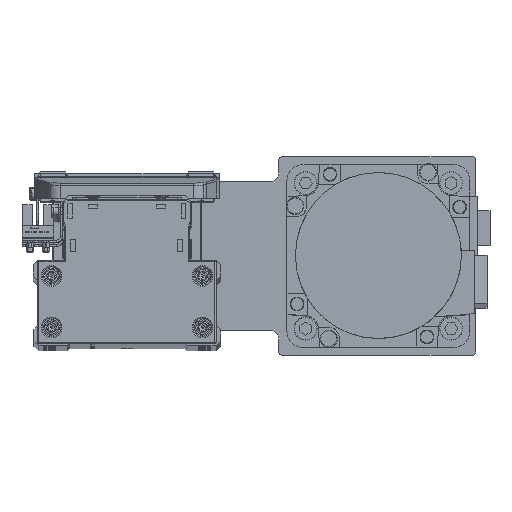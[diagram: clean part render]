
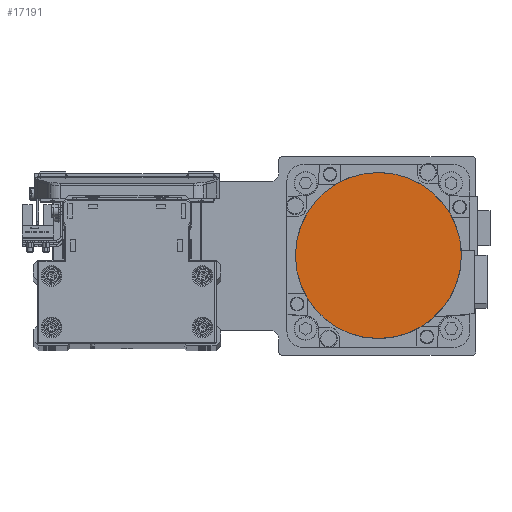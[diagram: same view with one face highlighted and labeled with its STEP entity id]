
A CAD part, top view. The second image highlights one B-rep face of the part: STEP entity #17191.
In plain terms, the highlighted planar face has unit normal (0, 0, 1) as drawn and (0, 0, -1) by its records, which use the part's own axes.
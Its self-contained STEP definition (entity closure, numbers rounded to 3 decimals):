
#2287 = DIRECTION ( 'NONE',  ( 0., -1., 0. ) ) ;
#4600 = CARTESIAN_POINT ( 'NONE',  ( 0., -36.3, -122.2 ) ) ;
#6093 = AXIS2_PLACEMENT_3D ( 'NONE', #36736, #8736, #21207 ) ;
#6356 = CARTESIAN_POINT ( 'NONE',  ( 0., 36.3, -122.2 ) ) ;
#7137 = VERTEX_POINT ( 'NONE', #6356 ) ;
#7795 = CIRCLE ( 'NONE', #30647, 36.3 ) ;
#8736 = DIRECTION ( 'NONE',  ( 0., 0., 1. ) ) ;
#9808 = CARTESIAN_POINT ( 'NONE',  ( 0., 0., -122.2 ) ) ;
#17191 = ADVANCED_FACE ( 'NONE', ( #25346 ), #37816, .F. ) ;
#17835 = CARTESIAN_POINT ( 'NONE',  ( 0., 0., -122.2 ) ) ;
#19022 = ORIENTED_EDGE ( 'NONE', *, *, #33788, .F. ) ;
#20063 = AXIS2_PLACEMENT_3D ( 'NONE', #9808, #22274, #34736 ) ;
#21207 = DIRECTION ( 'NONE',  ( 0., 1., 0. ) ) ;
#21282 = ORIENTED_EDGE ( 'NONE', *, *, #39965, .F. ) ;
#22274 = DIRECTION ( 'NONE',  ( 0., 0., 1. ) ) ;
#22668 = VERTEX_POINT ( 'NONE', #4600 ) ;
#23710 = CIRCLE ( 'NONE', #6093, 36.3 ) ;
#25346 = FACE_OUTER_BOUND ( 'NONE', #36724, .T. ) ;
#30300 = DIRECTION ( 'NONE',  ( 0., 0., 1. ) ) ;
#30647 = AXIS2_PLACEMENT_3D ( 'NONE', #17835, #30300, #2287 ) ;
#33788 = EDGE_CURVE ( 'NONE', #7137, #22668, #23710, .T. ) ;
#34736 = DIRECTION ( 'NONE',  ( 1., 0., 0. ) ) ;
#36724 = EDGE_LOOP ( 'NONE', ( #19022, #21282 ) ) ;
#36736 = CARTESIAN_POINT ( 'NONE',  ( 0., 0., -122.2 ) ) ;
#37816 = PLANE ( 'NONE',  #20063 ) ;
#39965 = EDGE_CURVE ( 'NONE', #22668, #7137, #7795, .T. ) ;
